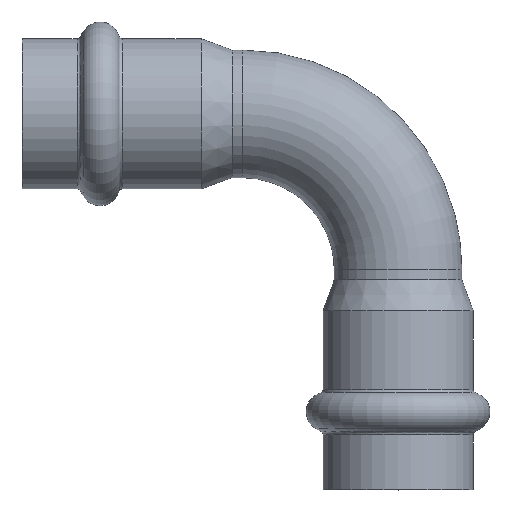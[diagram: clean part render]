
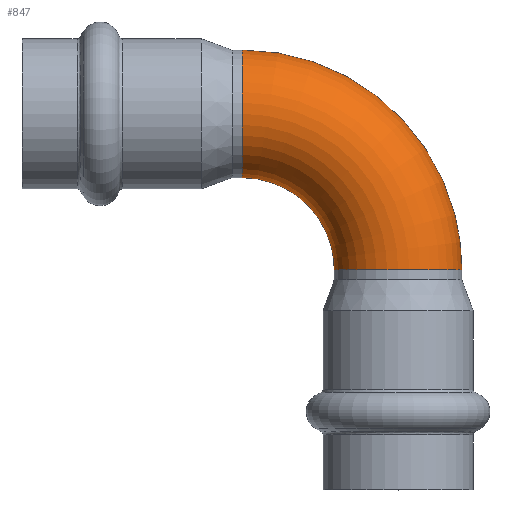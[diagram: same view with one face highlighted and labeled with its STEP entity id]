
A CAD part, top view. The second image highlights one B-rep face of the part: STEP entity #847.
In plain terms, the highlighted toroidal (fillet/blend) face has major radius 22 mm and minor radius 9 mm.
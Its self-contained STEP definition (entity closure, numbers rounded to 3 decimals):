
#820=CARTESIAN_POINT('',(0.,-22.,0.));
#821=DIRECTION('',(0.,0.,-1.0));
#822=DIRECTION('',(-1.0,0.0,0.0));
#823=AXIS2_PLACEMENT_3D('',#820,#821,#822);
#824=TOROIDAL_SURFACE('',#823,22.,9.);
#825=CARTESIAN_POINT('',(22.0,-22.,9.));
#826=VERTEX_POINT('',#825);
#827=CARTESIAN_POINT('',(22.0,-22.,0.0));
#828=DIRECTION('',(0.0,-1.0,0.0));
#829=DIRECTION('',(1.0,0.0,0.0));
#830=AXIS2_PLACEMENT_3D('',#827,#828,#829);
#831=CIRCLE('',#830,9.);
#832=EDGE_CURVE('',#826,#826,#831,.T.);
#833=ORIENTED_EDGE('',*,*,#832,.F.);
#834=EDGE_LOOP('',(#833));
#835=FACE_OUTER_BOUND('',#834,.T.);
#836=CARTESIAN_POINT('',(0.0,9.,0.0));
#837=VERTEX_POINT('',#836);
#838=CARTESIAN_POINT('',(0.,0.,0.0));
#839=DIRECTION('',(1.0,0.0,0.0));
#840=DIRECTION('',(0.0,1.0,0.0));
#841=AXIS2_PLACEMENT_3D('',#838,#839,#840);
#842=CIRCLE('',#841,9.);
#843=EDGE_CURVE('',#837,#837,#842,.T.);
#844=ORIENTED_EDGE('',*,*,#843,.T.);
#845=EDGE_LOOP('',(#844));
#846=FACE_BOUND('',#845,.T.);
#847=ADVANCED_FACE('',(#835,#846),#824,.T.);
